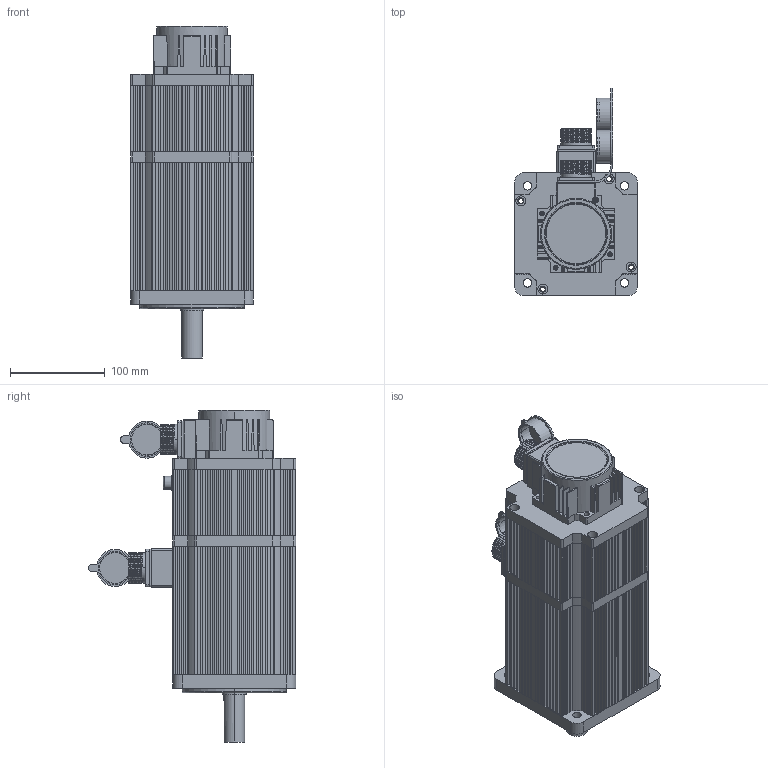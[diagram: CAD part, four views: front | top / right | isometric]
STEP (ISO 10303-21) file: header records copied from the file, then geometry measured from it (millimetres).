
FILE_DESCRIPTION (( 'STEP AP203' ), '1' );
FILE_NAME ('130 10N.M1500R抱闸.STEP', '2018-06-25T01:27:58', ( '微软用户' ), ( '微软中国' ), 'SwSTEP 2.0', 'SolidWorks 2016', '' );
FILE_SCHEMA (( 'CONFIG_CONTROL_DESIGN' ));
Length unit declared in the file: millimetre
Products named in the file (15): 15郋瑤脣; 130 6N.M惕掅粣; 15郋瑤脣釱; 130惕掅綴裔; 130惕掅儂褲; 130儂褲; 惕掅脣芛; 4郋瑤脣; 130 10N.M1500R惕掅; 瑤脣價釱; 130ヶ裔; 瑤脣々菜; 130綴裔; 130-4郋瑤脣釱; 晤鎢ん欶
Assembly tree (15 placements, depth 3):
  130 10N.M1500R惕掅
    130ヶ裔
    130綴裔
    晤鎢ん欶
    130 6N.M惕掅粣
    130惕掅綴裔
    130儂褲
    130-4郋瑤脣釱
      4郋瑤脣
      瑤脣價釱
      瑤脣々菜
    15郋瑤脣釱
      15郋瑤脣
      瑤脣々菜
    130惕掅儂褲
    惕掅脣芛
Bounding box: 130 x 219.29 x 351 mm (x, y, z)
Volume: 1215500.1 mm3; surface area: 590597.5 mm2
Topology: 14 solids, 14 shells, 1857 faces, 5049 edges, 3276 vertices
Faces by surface type: plane 996, cylinder 733, torus 49, sphere 36, cone 35, bspline 8
Entity records: 61825 total; most frequent: CARTESIAN_POINT 14071, ORIENTED_EDGE 9686, DIRECTION 9635, EDGE_CURVE 4843, AXIS2_PLACEMENT_3D 3247, VERTEX_POINT 3176, LINE 3141, VECTOR 3141
